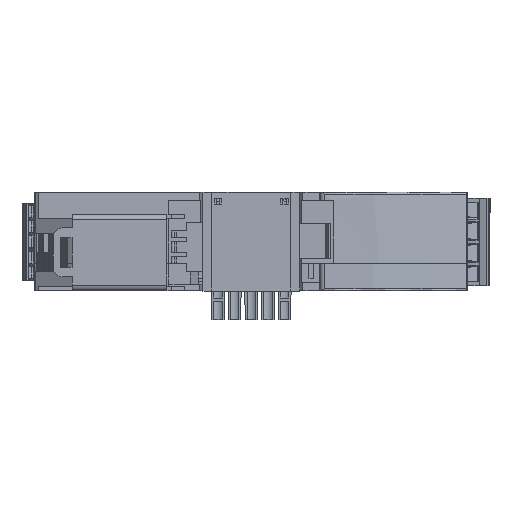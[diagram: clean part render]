
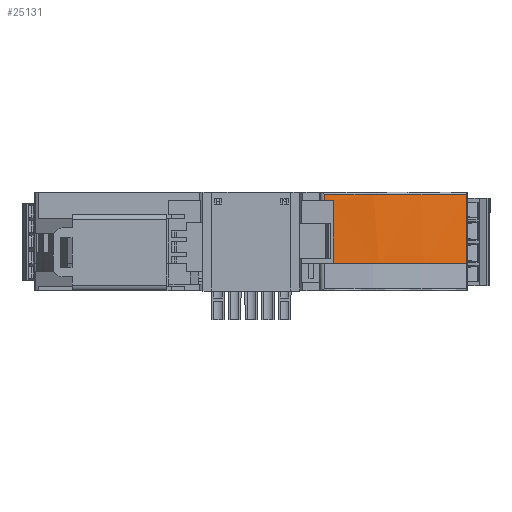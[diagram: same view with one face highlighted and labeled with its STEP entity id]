
A CAD part, front view. The second image highlights one B-rep face of the part: STEP entity #25131.
In plain terms, the highlighted cylindrical face has radius 80 mm (diameter 160 mm), a partial arc.
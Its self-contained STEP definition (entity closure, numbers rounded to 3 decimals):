
#1494 = CARTESIAN_POINT ( 'NONE',  ( 49.223, 11.669, 13.3 ) ) ;
#1838 = CYLINDRICAL_SURFACE ( 'NONE', #28886, 80. ) ;
#2283 = ORIENTED_EDGE ( 'NONE', *, *, #33525, .T. ) ;
#3644 = CARTESIAN_POINT ( 'NONE',  ( 18.7, 3.419, 3.3 ) ) ;
#6567 = CARTESIAN_POINT ( 'NONE',  ( 17.394, 3.342, 11.9 ) ) ;
#6667 = CARTESIAN_POINT ( 'NONE',  ( 18.7, 3.419, -2.5 ) ) ;
#10696 = FACE_OUTER_BOUND ( 'NONE', #23241, .T. ) ;
#15659 = ORIENTED_EDGE ( 'NONE', *, *, #77854, .T. ) ;
#15861 = DIRECTION ( 'NONE',  ( -1., 0., 0. ) ) ;
#16185 = DIRECTION ( 'NONE',  ( 0., 0., 1. ) ) ;
#17072 = EDGE_CURVE ( 'NONE', #49374, #51057, #58746, .T. ) ;
#19636 = CARTESIAN_POINT ( 'NONE',  ( 23.993, 3.764, -2.5 ) ) ;
#21036 = CARTESIAN_POINT ( 'NONE',  ( 18.7, 3.419, 11.9 ) ) ;
#22305 = VERTEX_POINT ( 'NONE', #6667 ) ;
#23241 = EDGE_LOOP ( 'NONE', ( #15659, #28078, #37764, #54948, #70012, #2283 ) ) ;
#24254 = DIRECTION ( 'NONE',  ( 0., 0., 1. ) ) ;
#25131 = ADVANCED_FACE ( 'NONE', ( #10696 ), #1838, .T. ) ;
#26642 = CARTESIAN_POINT ( 'NONE',  ( 44.477, 9.3, -2.5 ) ) ;
#27059 = VECTOR ( 'NONE', #16185, 1000. ) ;
#27542 = CARTESIAN_POINT ( 'NONE',  ( 49.223, 11.669, -2.5 ) ) ;
#28078 = ORIENTED_EDGE ( 'NONE', *, *, #77140, .T. ) ;
#28823 = VERTEX_POINT ( 'NONE', #77911 ) ;
#28886 = AXIS2_PLACEMENT_3D ( 'NONE', #51849, #52790, #59325 ) ;
#29241 = CARTESIAN_POINT ( 'NONE',  ( 18.7, 3.419, 11.9 ) ) ;
#32163 = DIRECTION ( 'NONE',  ( 0., 0., -1. ) ) ;
#33173 = VECTOR ( 'NONE', #32163, 1000. ) ;
#33525 = EDGE_CURVE ( 'NONE', #28823, #48685, #63386, .T. ) ;
#33665 = CARTESIAN_POINT ( 'NONE',  ( 18.7, 3.419, -2.5 ) ) ;
#34981 = CIRCLE ( 'NONE', #87236, 80. ) ;
#37764 = ORIENTED_EDGE ( 'NONE', *, *, #17072, .T. ) ;
#45559 = DIRECTION ( 'NONE',  ( 0., 0., 1. ) ) ;
#48685 = VERTEX_POINT ( 'NONE', #29241 ) ;
#49374 = VERTEX_POINT ( 'NONE', #27542 ) ;
#51057 = VERTEX_POINT ( 'NONE', #1494 ) ;
#51718 = CARTESIAN_POINT ( 'NONE',  ( 49.223, 11.669, 3.3 ) ) ;
#51849 = CARTESIAN_POINT ( 'NONE',  ( 13.5, 83.25, 3.3 ) ) ;
#52790 = DIRECTION ( 'NONE',  ( 0., 0., -1. ) ) ;
#54948 = ORIENTED_EDGE ( 'NONE', *, *, #80600, .F. ) ;
#55173 = CARTESIAN_POINT ( 'NONE',  ( 49.223, 11.669, -2.5 ) ) ;
#58746 = LINE ( 'NONE', #51718, #27059 ) ;
#59325 = DIRECTION ( 'NONE',  ( -1., 0., 0. ) ) ;
#62170 = CARTESIAN_POINT ( 'NONE',  ( 39.494, 7.405, -2.5 ) ) ;
#63386 = B_SPLINE_CURVE_WITH_KNOTS ( 'NONE', 3,
 ( #78097, #6567, #64034, #21036 ),
 .UNSPECIFIED., .F., .F.,
 ( 4, 4 ),
 ( 0., 1. ),
 .UNSPECIFIED. ) ;
#64034 = CARTESIAN_POINT ( 'NONE',  ( 18.047, 3.377, 11.9 ) ) ;
#66338 = CARTESIAN_POINT ( 'NONE',  ( 13.5, 83.25, 13.3 ) ) ;
#67705 = LINE ( 'NONE', #3644, #33173 ) ;
#68727 = CARTESIAN_POINT ( 'NONE',  ( 29.252, 4.637, -2.5 ) ) ;
#70012 = ORIENTED_EDGE ( 'NONE', *, *, #82256, .F. ) ;
#70814 = CARTESIAN_POINT ( 'NONE',  ( 16.741, 3.316, 13.3 ) ) ;
#73492 = VECTOR ( 'NONE', #45559, 1000. ) ;
#77140 = EDGE_CURVE ( 'NONE', #22305, #49374, #84700, .T. ) ;
#77254 = VERTEX_POINT ( 'NONE', #70814 ) ;
#77854 = EDGE_CURVE ( 'NONE', #48685, #22305, #67705, .T. ) ;
#77911 = CARTESIAN_POINT ( 'NONE',  ( 16.741, 3.316, 11.9 ) ) ;
#78097 = CARTESIAN_POINT ( 'NONE',  ( 16.741, 3.316, 11.9 ) ) ;
#80600 = EDGE_CURVE ( 'NONE', #77254, #51057, #34981, .T. ) ;
#80633 = CARTESIAN_POINT ( 'NONE',  ( 16.741, 3.316, 13.8 ) ) ;
#82256 = EDGE_CURVE ( 'NONE', #28823, #77254, #89973, .T. ) ;
#84700 = B_SPLINE_CURVE_WITH_KNOTS ( 'NONE', 3,
 ( #33665, #19636, #68727, #62170, #26642, #55173 ),
 .UNSPECIFIED., .F., .F.,
 ( 4, 2, 4 ),
 ( 0., 0.5, 1. ),
 .UNSPECIFIED. ) ;
#87236 = AXIS2_PLACEMENT_3D ( 'NONE', #66338, #24254, #15861 ) ;
#89973 = LINE ( 'NONE', #80633, #73492 ) ;
